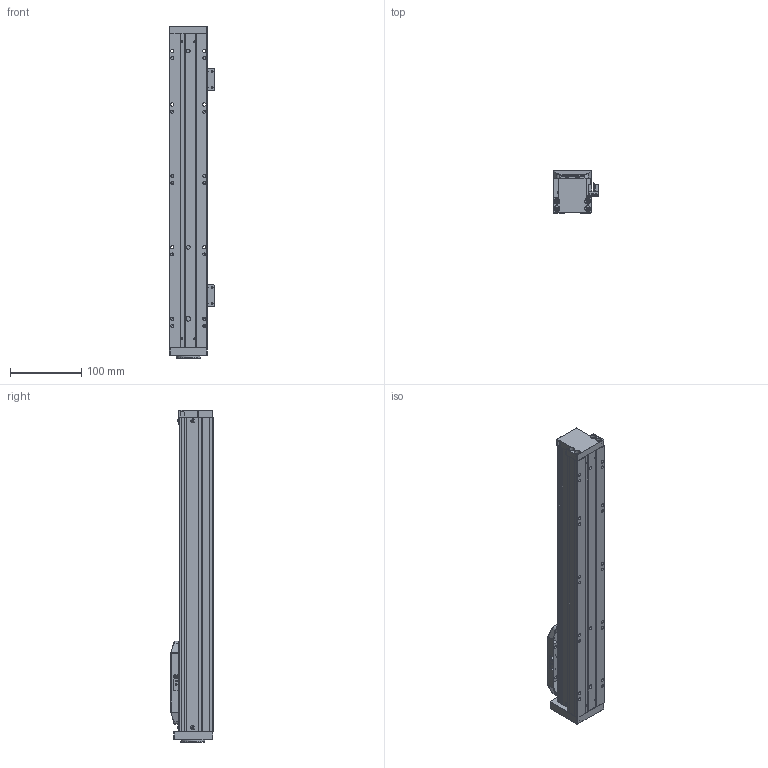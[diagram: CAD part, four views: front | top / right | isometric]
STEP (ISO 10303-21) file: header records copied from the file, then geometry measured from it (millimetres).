
FILE_DESCRIPTION (( 'STEP AP203' ), '1' );
FILE_NAME ('KTH5-L10-S20.STEP', '2019-12-19T08:19:29', ( '微软用户' ), ( '微软中国' ), 'SwSTEP 2.0', 'SolidWorks 2017', '' );
FILE_SCHEMA (( 'CONFIG_CONTROL_DESIGN' ));
Length unit declared in the file: millimetre
Products named in the file (16): EE-SX674; LES50-013癹弇菜; EE-SX674WR嫖萇羲壽假蚾啣; KTH5-L10-S20; 詩湍; 詩湍揤啣; GB╱T 70.1-2008[内六角圆柱头螺钉M4×16]_M4×16; LES50-001菁釱; GB╱T 70.2-2008[内六角平圆头螺钉M3×10]_M3×10; LES50-004賑釱; ヶ裔-党蜊唳; 耜啣; 粣創釱-郔笝唳20190813; 階裔; 嫖萇羲壽諉揖え; 棠沭
Assembly tree (31 placements, depth 2):
  KTH5-L10-S20
    LES50-001菁釱
    LES50-004賑釱
    耜啣  x2
    階裔
    棠沭  x2
    LES50-013癹弇菜  x2
    詩湍
    詩湍揤啣  x2
    GB╱T 70.1-2008[内六角圆柱头螺钉M4×16]_M4×16  x4
    GB╱T 70.2-2008[内六角平圆头螺钉M3×10]_M3×10  x8
    ヶ裔-党蜊唳
    粣創釱-郔笝唳20190813
    嫖萇羲壽諉揖え
    EE-SX674  x2
    EE-SX674WR嫖萇羲壽假蚾啣  x2
Bounding box: 64.25 x 60 x 465 mm (x, y, z)
Volume: 482819.3 mm3; surface area: 265772.8 mm2
Topology: 31 solids, 31 shells, 1381 faces, 3340 edges, 2048 vertices
Faces by surface type: plane 654, cylinder 439, cone 224, torus 36, sphere 16, bspline 12
Entity records: 31654 total; most frequent: CARTESIAN_POINT 5635, DIRECTION 5136, ORIENTED_EDGE 4764, EDGE_CURVE 2382, AXIS2_PLACEMENT_3D 1804, VECTOR 1528, LINE 1528, VERTEX_POINT 1513
